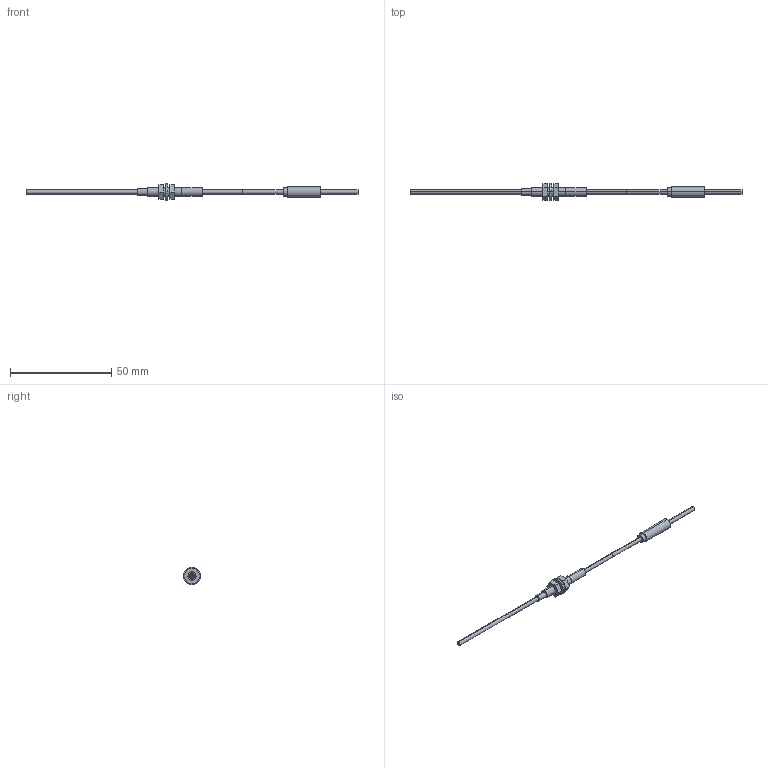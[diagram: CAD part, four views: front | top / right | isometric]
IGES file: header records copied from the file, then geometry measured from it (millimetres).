
Start section: SolidWorks IGES FILE using analytic representation for surfaces
Global section: file name: C:\Documents and Settings\yk0651\デスクトップ\3D_catalog_050929\0_IGES\FT-H35-M2S6.IGS; native system: SolidWorks 2004 by SolidWorks Corporation; preprocessor: Version 5.3; author: yk0651; date: 051002.180607; units: millimetre
Bounding box: 164 x 8.5 x 8.5 mm (x, y, z)
Volume: 1300.7 mm3; surface area: 1934.5 mm2
Topology: 7 solids, 7 shells, 60 faces, 120 edges, 80 vertices
Faces by surface type: plane 32, revolution 28
